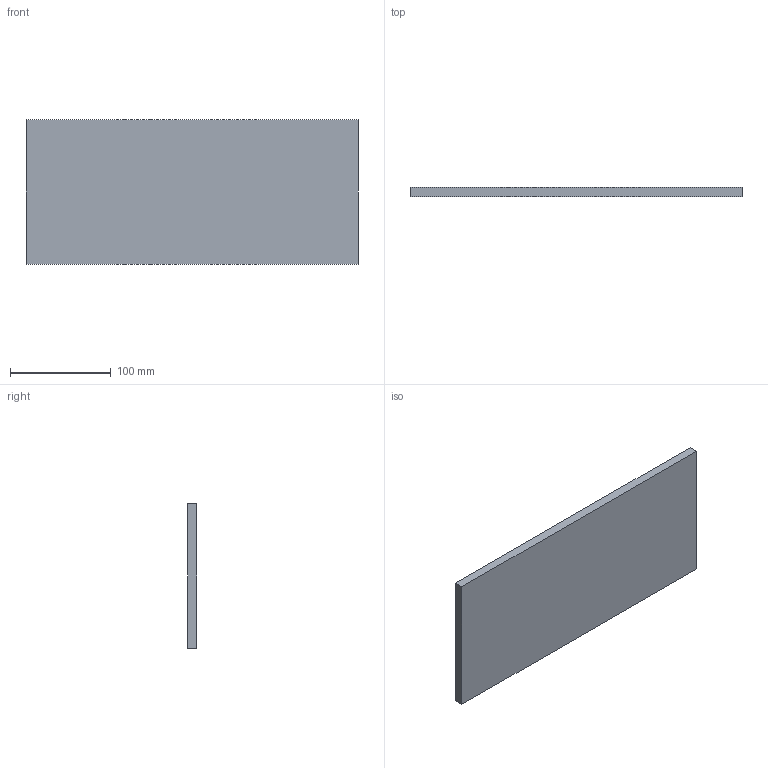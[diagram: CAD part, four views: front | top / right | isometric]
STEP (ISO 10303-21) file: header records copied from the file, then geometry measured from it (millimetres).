
FILE_DESCRIPTION( (''), '2;1');
FILE_NAME ('FR-150-33.0.stp','2024-12-17T17:01:50',(''),(''),'spGate 20.6.2 (****-****-****-****)','','');
FILE_SCHEMA (('AUTOMOTIVE_DESIGN'));
Length unit declared in the file: millimetre
Products named in the file (162): NewModel; TEMP_X_T-prt0; TEMP_X_T-prt1; TEMP_X_T-prt2; TEMP_X_T-prt3; TEMP_X_T-prt4; TEMP_X_T-prt5; TEMP_X_T-prt6; TEMP_X_T-prt7; TEMP_X_T-prt8; TEMP_X_T-prt9; TEMP_X_T-prt10; TEMP_X_T-prt11; TEMP_X_T-prt12; TEMP_X_T-prt13; TEMP_X_T-prt14; TEMP_X_T-prt15; TEMP_X_T-prt16; TEMP_X_T-prt17; TEMP_X_T-prt18; TEMP_X_T-prt19; TEMP_X_T-prt20; TEMP_X_T-prt21; TEMP_X_T-prt22; TEMP_X_T-prt23; TEMP_X_T-prt24; TEMP_X_T-prt25; TEMP_X_T-prt26; TEMP_X_T-prt27; TEMP_X_T-prt28; TEMP_X_T-prt29; TEMP_X_T-prt30; TEMP_X_T-prt31; TEMP_X_T-prt32; TEMP_X_T-prt33; TEMP_X_T-prt34; TEMP_X_T-prt35; TEMP_X_T-prt36; TEMP_X_T-prt37; TEMP_X_T-prt38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
Assembly tree (161 placements, depth 2):
  NewModel
    TEMP_X_T-prt0
    TEMP_X_T-prt1
    TEMP_X_T-prt2
    TEMP_X_T-prt3
    TEMP_X_T-prt4
    TEMP_X_T-prt5
    TEMP_X_T-prt6
    TEMP_X_T-prt7
    TEMP_X_T-prt8
    TEMP_X_T-prt9
    TEMP_X_T-prt10
    TEMP_X_T-prt11
    TEMP_X_T-prt12
    TEMP_X_T-prt13
    TEMP_X_T-prt14
    TEMP_X_T-prt15
    TEMP_X_T-prt16
    TEMP_X_T-prt17
    TEMP_X_T-prt18
    TEMP_X_T-prt19
    TEMP_X_T-prt20
    TEMP_X_T-prt21
    TEMP_X_T-prt22
    TEMP_X_T-prt23
    TEMP_X_T-prt24
    TEMP_X_T-prt25
    TEMP_X_T-prt26
    TEMP_X_T-prt27
    TEMP_X_T-prt28
    TEMP_X_T-prt29
    TEMP_X_T-prt30
    TEMP_X_T-prt31
    TEMP_X_T-prt32
    TEMP_X_T-prt33
    TEMP_X_T-prt34
    TEMP_X_T-prt35
    TEMP_X_T-prt36
    TEMP_X_T-prt37
    TEMP_X_T-prt38
    TEMP_X_T-prt39
    TEMP_X_T-prt40
    TEMP_X_T-prt41
    TEMP_X_T-prt42
    TEMP_X_T-prt43
    TEMP_X_T-prt44
    TEMP_X_T-prt45
    TEMP_X_T-prt46
    TEMP_X_T-prt47
    TEMP_X_T-prt48
    TEMP_X_T-prt49
    TEMP_X_T-prt50
    TEMP_X_T-prt51
    TEMP_X_T-prt52
    TEMP_X_T-prt53
    TEMP_X_T-prt54
    TEMP_X_T-prt55
    TEMP_X_T-prt56
    TEMP_X_T-prt57
    TEMP_X_T-prt58
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Bounding box: 329.4 x 9.3 x 143 mm (x, y, z)
Surface area: 208217.7 mm2
Topology: 161 solids, 161 shells, 646 faces, 972 edges, 648 vertices
Faces by surface type: plane 326, cylinder 320
Entity records: 28792 total; most frequent: DIRECTION 3232, CARTESIAN_POINT 2910, ORIENTED_EDGE 1944, COLOUR_RGB 1779, PRESENTATION_STYLE_ASSIGNMENT 1779, STYLED_ITEM 1779, AXIS2_PLACEMENT_3D 1610, EDGE_CURVE 972
